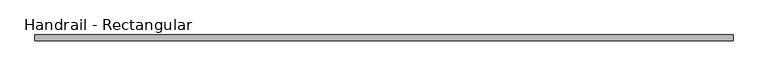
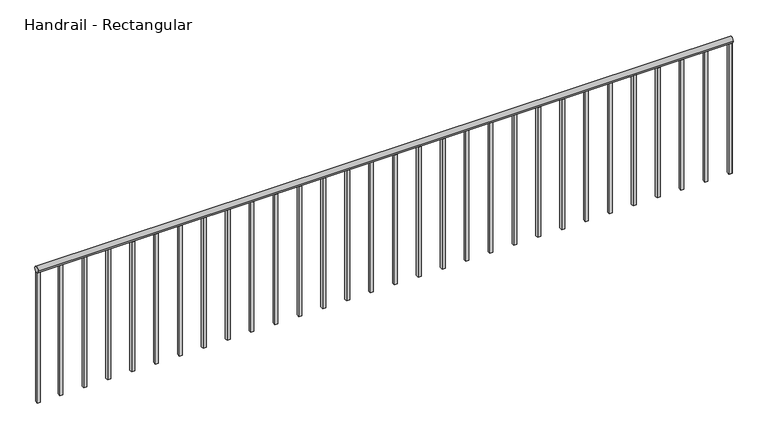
"""IFC4 building model written with IfcOpenShell, lengths in millimetres: railing geometry, Handrail - Rectangular."""

from ifc_helpers import new_model, si_unit, point, frame, frame_2d, origin, place, context, project, spatial, polyline, circle_curve, trimmed, segment, composite_curve, outline, extrude, source, transform, mapped, element, save


def handrail_rectangular_8f895436(model_context):
    return source(origin(), model_context, "Body", "SweptSolid", [
        extrude(outline(composite_curve([segment(trimmed(circle_curve(frame_2d((11944.8316867, 10039.35)), 19.05), [point((11963.8816867, 10039.35))], [point((11925.7816867, 10039.35))], False, "CARTESIAN"), True, "CONTINUOUS"), segment(trimmed(circle_curve(frame_2d((11944.8316867, 10039.35)), 19.05), [point((11925.7816867, 10039.35))], [point((11963.8816867, 10039.35))], False, "CARTESIAN"), True, "CONTINUOUS")], self_intersect=False)), frame((-3862.3589563, 0.0, 0.0), z_axis=(1.0, 0.0, 0.0), x_axis=(0.0, 1.0, 0.0)), (0.0, 0.0, 1.0), 4432.3),
        extrude(outline(polyline([(547.7160437, 11935.3066867), (547.7160437, 11954.3566867), (566.7660437, 11954.3566867), (566.7660437, 11935.3066867), (547.7160437, 11935.3066867)])), frame((0.0, 0.0, 9144.0), z_axis=(0.0, 0.0, 1.0), x_axis=(1.0, 0.0, 0.0)), (0.0, 0.0, 1.0), 876.3),
        extrude(outline(polyline([(395.3160437, 11935.3066867), (395.3160437, 11954.3566867), (414.3660437, 11954.3566867), (414.3660437, 11935.3066867), (395.3160437, 11935.3066867)])), frame((0.0, 0.0, 9144.0), z_axis=(0.0, 0.0, 1.0), x_axis=(1.0, 0.0, 0.0)), (0.0, 0.0, 1.0), 876.3),
        extrude(outline(polyline([(242.9160437, 11935.3066867), (242.9160437, 11954.3566867), (261.9660437, 11954.3566867), (261.9660437, 11935.3066867), (242.9160437, 11935.3066867)])), frame((0.0, 0.0, 9144.0), z_axis=(0.0, 0.0, 1.0), x_axis=(1.0, 0.0, 0.0)), (0.0, 0.0, 1.0), 876.3),
        extrude(outline(polyline([(90.5160437, 11935.3066867), (90.5160437, 11954.3566867), (109.5660437, 11954.3566867), (109.5660437, 11935.3066867), (90.5160437, 11935.3066867)])), frame((0.0, 0.0, 9144.0), z_axis=(0.0, 0.0, 1.0), x_axis=(1.0, 0.0, 0.0)), (0.0, 0.0, 1.0), 876.3),
        extrude(outline(polyline([(-61.8839563, 11935.3066867), (-61.8839563, 11954.3566867), (-42.8339563, 11954.3566867), (-42.8339563, 11935.3066867), (-61.8839563, 11935.3066867)])), frame((0.0, 0.0, 9144.0), z_axis=(0.0, 0.0, 1.0), x_axis=(1.0, 0.0, 0.0)), (0.0, 0.0, 1.0), 876.3),
        extrude(outline(polyline([(-214.2839563, 11935.3066867), (-214.2839563, 11954.3566867), (-195.2339563, 11954.3566867), (-195.2339563, 11935.3066867), (-214.2839563, 11935.3066867)])), frame((0.0, 0.0, 9144.0), z_axis=(0.0, 0.0, 1.0), x_axis=(1.0, 0.0, 0.0)), (0.0, 0.0, 1.0), 876.3),
        extrude(outline(polyline([(-366.6839563, 11935.3066867), (-366.6839563, 11954.3566867), (-347.6339563, 11954.3566867), (-347.6339563, 11935.3066867), (-366.6839563, 11935.3066867)])), frame((0.0, 0.0, 9144.0), z_axis=(0.0, 0.0, 1.0), x_axis=(1.0, 0.0, 0.0)), (0.0, 0.0, 1.0), 876.3),
        extrude(outline(polyline([(-519.0839563, 11935.3066867), (-519.0839563, 11954.3566867), (-500.0339563, 11954.3566867), (-500.0339563, 11935.3066867), (-519.0839563, 11935.3066867)])), frame((0.0, 0.0, 9144.0), z_axis=(0.0, 0.0, 1.0), x_axis=(1.0, 0.0, 0.0)), (0.0, 0.0, 1.0), 876.3),
        extrude(outline(polyline([(-671.4839563, 11935.3066867), (-671.4839563, 11954.3566867), (-652.4339563, 11954.3566867), (-652.4339563, 11935.3066867), (-671.4839563, 11935.3066867)])), frame((0.0, 0.0, 9144.0), z_axis=(0.0, 0.0, 1.0), x_axis=(1.0, 0.0, 0.0)), (0.0, 0.0, 1.0), 876.3),
        extrude(outline(polyline([(-823.8839563, 11935.3066867), (-823.8839563, 11954.3566867), (-804.8339563, 11954.3566867), (-804.8339563, 11935.3066867), (-823.8839563, 11935.3066867)])), frame((0.0, 0.0, 9144.0), z_axis=(0.0, 0.0, 1.0), x_axis=(1.0, 0.0, 0.0)), (0.0, 0.0, 1.0), 876.3),
        extrude(outline(polyline([(-976.2839563, 11935.3066867), (-976.2839563, 11954.3566867), (-957.2339563, 11954.3566867), (-957.2339563, 11935.3066867), (-976.2839563, 11935.3066867)])), frame((0.0, 0.0, 9144.0), z_axis=(0.0, 0.0, 1.0), x_axis=(1.0, 0.0, 0.0)), (0.0, 0.0, 1.0), 876.3),
        extrude(outline(polyline([(-1128.6839563, 11935.3066867), (-1128.6839563, 11954.3566867), (-1109.6339563, 11954.3566867), (-1109.6339563, 11935.3066867), (-1128.6839563, 11935.3066867)])), frame((0.0, 0.0, 9144.0), z_axis=(0.0, 0.0, 1.0), x_axis=(1.0, 0.0, 0.0)), (0.0, 0.0, 1.0), 876.3),
        extrude(outline(polyline([(-1281.0839563, 11935.3066867), (-1281.0839563, 11954.3566867), (-1262.0339563, 11954.3566867), (-1262.0339563, 11935.3066867), (-1281.0839563, 11935.3066867)])), frame((0.0, 0.0, 9144.0), z_axis=(0.0, 0.0, 1.0), x_axis=(1.0, 0.0, 0.0)), (0.0, 0.0, 1.0), 876.3),
        extrude(outline(polyline([(-1433.4839563, 11935.3066867), (-1433.4839563, 11954.3566867), (-1414.4339563, 11954.3566867), (-1414.4339563, 11935.3066867), (-1433.4839563, 11935.3066867)])), frame((0.0, 0.0, 9144.0), z_axis=(0.0, 0.0, 1.0), x_axis=(1.0, 0.0, 0.0)), (0.0, 0.0, 1.0), 876.3),
        extrude(outline(polyline([(-1585.8839563, 11935.3066867), (-1585.8839563, 11954.3566867), (-1566.8339563, 11954.3566867), (-1566.8339563, 11935.3066867), (-1585.8839563, 11935.3066867)])), frame((0.0, 0.0, 9144.0), z_axis=(0.0, 0.0, 1.0), x_axis=(1.0, 0.0, 0.0)), (0.0, 0.0, 1.0), 876.3),
        extrude(outline(polyline([(-1738.2839563, 11935.3066867), (-1738.2839563, 11954.3566867), (-1719.2339563, 11954.3566867), (-1719.2339563, 11935.3066867), (-1738.2839563, 11935.3066867)])), frame((0.0, 0.0, 9144.0), z_axis=(0.0, 0.0, 1.0), x_axis=(1.0, 0.0, 0.0)), (0.0, 0.0, 1.0), 876.3),
        extrude(outline(polyline([(-1890.6839563, 11935.3066867), (-1890.6839563, 11954.3566867), (-1871.6339563, 11954.3566867), (-1871.6339563, 11935.3066867), (-1890.6839563, 11935.3066867)])), frame((0.0, 0.0, 9144.0), z_axis=(0.0, 0.0, 1.0), x_axis=(1.0, 0.0, 0.0)), (0.0, 0.0, 1.0), 876.3),
        extrude(outline(polyline([(-2043.0839563, 11935.3066867), (-2043.0839563, 11954.3566867), (-2024.0339563, 11954.3566867), (-2024.0339563, 11935.3066867), (-2043.0839563, 11935.3066867)])), frame((0.0, 0.0, 9144.0), z_axis=(0.0, 0.0, 1.0), x_axis=(1.0, 0.0, 0.0)), (0.0, 0.0, 1.0), 876.3),
        extrude(outline(polyline([(-2195.4839563, 11935.3066867), (-2195.4839563, 11954.3566867), (-2176.4339563, 11954.3566867), (-2176.4339563, 11935.3066867), (-2195.4839563, 11935.3066867)])), frame((0.0, 0.0, 9144.0), z_axis=(0.0, 0.0, 1.0), x_axis=(1.0, 0.0, 0.0)), (0.0, 0.0, 1.0), 876.3),
        extrude(outline(polyline([(-2347.8839563, 11935.3066867), (-2347.8839563, 11954.3566867), (-2328.8339563, 11954.3566867), (-2328.8339563, 11935.3066867), (-2347.8839563, 11935.3066867)])), frame((0.0, 0.0, 9144.0), z_axis=(0.0, 0.0, 1.0), x_axis=(1.0, 0.0, 0.0)), (0.0, 0.0, 1.0), 876.3),
        extrude(outline(polyline([(-2500.2839563, 11935.3066867), (-2500.2839563, 11954.3566867), (-2481.2339563, 11954.3566867), (-2481.2339563, 11935.3066867), (-2500.2839563, 11935.3066867)])), frame((0.0, 0.0, 9144.0), z_axis=(0.0, 0.0, 1.0), x_axis=(1.0, 0.0, 0.0)), (0.0, 0.0, 1.0), 876.3),
        extrude(outline(polyline([(-2652.6839563, 11935.3066867), (-2652.6839563, 11954.3566867), (-2633.6339563, 11954.3566867), (-2633.6339563, 11935.3066867), (-2652.6839563, 11935.3066867)])), frame((0.0, 0.0, 9144.0), z_axis=(0.0, 0.0, 1.0), x_axis=(1.0, 0.0, 0.0)), (0.0, 0.0, 1.0), 876.3),
        extrude(outline(polyline([(-2805.0839563, 11935.3066867), (-2805.0839563, 11954.3566867), (-2786.0339563, 11954.3566867), (-2786.0339563, 11935.3066867), (-2805.0839563, 11935.3066867)])), frame((0.0, 0.0, 9144.0), z_axis=(0.0, 0.0, 1.0), x_axis=(1.0, 0.0, 0.0)), (0.0, 0.0, 1.0), 876.3),
        extrude(outline(polyline([(-2957.4839563, 11935.3066867), (-2957.4839563, 11954.3566867), (-2938.4339563, 11954.3566867), (-2938.4339563, 11935.3066867), (-2957.4839563, 11935.3066867)])), frame((0.0, 0.0, 9144.0), z_axis=(0.0, 0.0, 1.0), x_axis=(1.0, 0.0, 0.0)), (0.0, 0.0, 1.0), 876.3),
        extrude(outline(polyline([(-3109.8839563, 11935.3066867), (-3109.8839563, 11954.3566867), (-3090.8339563, 11954.3566867), (-3090.8339563, 11935.3066867), (-3109.8839563, 11935.3066867)])), frame((0.0, 0.0, 9144.0), z_axis=(0.0, 0.0, 1.0), x_axis=(1.0, 0.0, 0.0)), (0.0, 0.0, 1.0), 876.3),
        extrude(outline(polyline([(-3262.2839563, 11935.3066867), (-3262.2839563, 11954.3566867), (-3243.2339563, 11954.3566867), (-3243.2339563, 11935.3066867), (-3262.2839563, 11935.3066867)])), frame((0.0, 0.0, 9144.0), z_axis=(0.0, 0.0, 1.0), x_axis=(1.0, 0.0, 0.0)), (0.0, 0.0, 1.0), 876.3),
        extrude(outline(polyline([(-3414.6839563, 11935.3066867), (-3414.6839563, 11954.3566867), (-3395.6339563, 11954.3566867), (-3395.6339563, 11935.3066867), (-3414.6839563, 11935.3066867)])), frame((0.0, 0.0, 9144.0), z_axis=(0.0, 0.0, 1.0), x_axis=(1.0, 0.0, 0.0)), (0.0, 0.0, 1.0), 876.3),
        extrude(outline(polyline([(-3567.0839563, 11935.3066867), (-3567.0839563, 11954.3566867), (-3548.0339563, 11954.3566867), (-3548.0339563, 11935.3066867), (-3567.0839563, 11935.3066867)])), frame((0.0, 0.0, 9144.0), z_axis=(0.0, 0.0, 1.0), x_axis=(1.0, 0.0, 0.0)), (0.0, 0.0, 1.0), 876.3),
        extrude(outline(polyline([(-3719.4839563, 11935.3066867), (-3719.4839563, 11954.3566867), (-3700.4339563, 11954.3566867), (-3700.4339563, 11935.3066867), (-3719.4839563, 11935.3066867)])), frame((0.0, 0.0, 9144.0), z_axis=(0.0, 0.0, 1.0), x_axis=(1.0, 0.0, 0.0)), (0.0, 0.0, 1.0), 876.3),
        extrude(outline(polyline([(550.8910437, 11935.3066867), (550.8910437, 11954.3566867), (569.9410437, 11954.3566867), (569.9410437, 11935.3066867), (550.8910437, 11935.3066867)])), frame((0.0, 0.0, 9144.0), z_axis=(0.0, 0.0, 1.0), x_axis=(1.0, 0.0, 0.0)), (0.0, 0.0, 1.0), 876.3),
        extrude(outline(polyline([(-3862.3589563, 11935.3066867), (-3862.3589563, 11954.3566867), (-3843.3089563, 11954.3566867), (-3843.3089563, 11935.3066867), (-3862.3589563, 11935.3066867)])), frame((0.0, 0.0, 9144.0), z_axis=(0.0, 0.0, 1.0), x_axis=(1.0, 0.0, 0.0)), (0.0, 0.0, 1.0), 876.3),
    ])


if __name__ == "__main__":
    model = new_model("IFC4")
    model_context = context("Model", 3, world=origin())
    ifc_project = project(units=[si_unit("LENGTHUNIT", "METRE", prefix="MILLI")], contexts=[model_context])
    site = spatial("IfcSite", under=ifc_project)
    building = spatial("IfcBuilding", under=site)
    placement = place(None, origin())
    handrail_rectangular_shape = handrail_rectangular_8f895436(model_context)
    element("IfcRailing", 1, ObjectType="Handrail - Rectangular", at=placement, inside=building, context=model_context, shape_type="MappedRepresentation", body=[
        mapped(handrail_rectangular_shape, transform((0.0, 0.0, 0.0), x_axis=(1.0, 0.0, 0.0), y_axis=(0.0, 1.0, 0.0), z_axis=(0.0, 0.0, 1.0))),
    ])
    save(model, "model.ifc")
